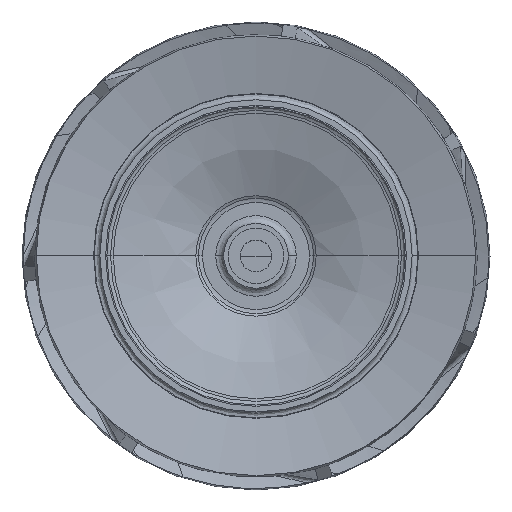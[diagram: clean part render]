
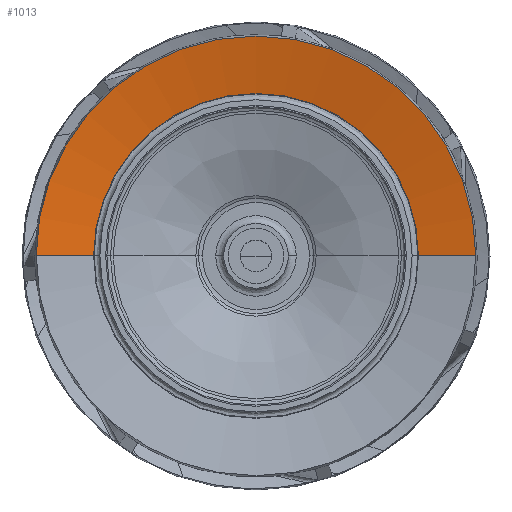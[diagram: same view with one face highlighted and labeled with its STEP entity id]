
A CAD part, top view. The second image highlights one B-rep face of the part: STEP entity #1013.
In plain terms, the highlighted face is a revolution surface.
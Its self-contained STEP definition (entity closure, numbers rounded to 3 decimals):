
#929 = VERTEX_POINT('',#930);
#930 = CARTESIAN_POINT('',(102.371,0.,90.48));
#937 = VERTEX_POINT('',#938);
#938 = CARTESIAN_POINT('',(-102.371,0.,90.48));
#958 = EDGE_CURVE('',#929,#937,#959,.T.);
#959 = CIRCLE('',#960,102.371);
#960 = AXIS2_PLACEMENT_3D('',#961,#962,#963);
#961 = CARTESIAN_POINT('',(0.,0.,90.48));
#962 = DIRECTION('',(0.,0.,1.));
#963 = DIRECTION('',(1.,0.,-0.));
#977 = EDGE_CURVE('',#929,#978,#980,.T.);
#978 = VERTEX_POINT('',#979);
#979 = CARTESIAN_POINT('',(138.528,0.,98.205));
#980 = B_SPLINE_CURVE_WITH_KNOTS('',4,(#981,#982,#983,#984,#985),
  .UNSPECIFIED.,.F.,.F.,(5,5),(0.,1.),.PIECEWISE_BEZIER_KNOTS.);
#981 = CARTESIAN_POINT('',(102.371,0.,90.48));
#982 = CARTESIAN_POINT('',(106.404,0.,91.413));
#983 = CARTESIAN_POINT('',(116.163,0.,93.526));
#984 = CARTESIAN_POINT('',(126.846,0.,95.761));
#985 = CARTESIAN_POINT('',(138.528,0.,98.205));
#988 = VERTEX_POINT('',#989);
#989 = CARTESIAN_POINT('',(-138.528,0.,98.205));
#996 = EDGE_CURVE('',#937,#988,#997,.T.);
#997 = B_SPLINE_CURVE_WITH_KNOTS('',4,(#998,#999,#1000,#1001,#1002),
  .UNSPECIFIED.,.F.,.F.,(5,5),(0.,1.),.PIECEWISE_BEZIER_KNOTS.);
#998 = CARTESIAN_POINT('',(-102.371,0.,90.48));
#999 = CARTESIAN_POINT('',(-106.404,0.,91.413));
#1000 = CARTESIAN_POINT('',(-116.163,0.,93.526));
#1001 = CARTESIAN_POINT('',(-126.846,0.,95.761));
#1002 = CARTESIAN_POINT('',(-138.528,0.,98.205));
#1013 = ADVANCED_FACE('Face 21',(#1014),#1026,.F.);
#1014 = FACE_BOUND('',#1015,.F.);
#1015 = EDGE_LOOP('',(#1016,#1023,#1024,#1025));
#1016 = ORIENTED_EDGE('',*,*,#1017,.F.);
#1017 = EDGE_CURVE('',#978,#988,#1018,.T.);
#1018 = CIRCLE('',#1019,138.528);
#1019 = AXIS2_PLACEMENT_3D('',#1020,#1021,#1022);
#1020 = CARTESIAN_POINT('',(0.,0.,98.205));
#1021 = DIRECTION('',(0.,0.,1.));
#1022 = DIRECTION('',(1.,0.,-0.));
#1023 = ORIENTED_EDGE('',*,*,#977,.F.);
#1024 = ORIENTED_EDGE('',*,*,#958,.T.);
#1025 = ORIENTED_EDGE('',*,*,#996,.T.);
#1026 = SURFACE_OF_REVOLUTION('',#1027,#1033);
#1027 = B_SPLINE_CURVE_WITH_KNOTS('',4,(#1028,#1029,#1030,#1031,#1032),
  .UNSPECIFIED.,.F.,.F.,(5,5),(0.,1.),.PIECEWISE_BEZIER_KNOTS.);
#1028 = CARTESIAN_POINT('',(102.371,0.,90.48));
#1029 = CARTESIAN_POINT('',(106.404,0.,91.413));
#1030 = CARTESIAN_POINT('',(116.163,0.,93.526));
#1031 = CARTESIAN_POINT('',(126.846,0.,95.761));
#1032 = CARTESIAN_POINT('',(138.528,0.,98.205));
#1033 = AXIS1_PLACEMENT('',#1034,#1035);
#1034 = CARTESIAN_POINT('',(0.,0.,0.));
#1035 = DIRECTION('',(0.,0.,1.));
